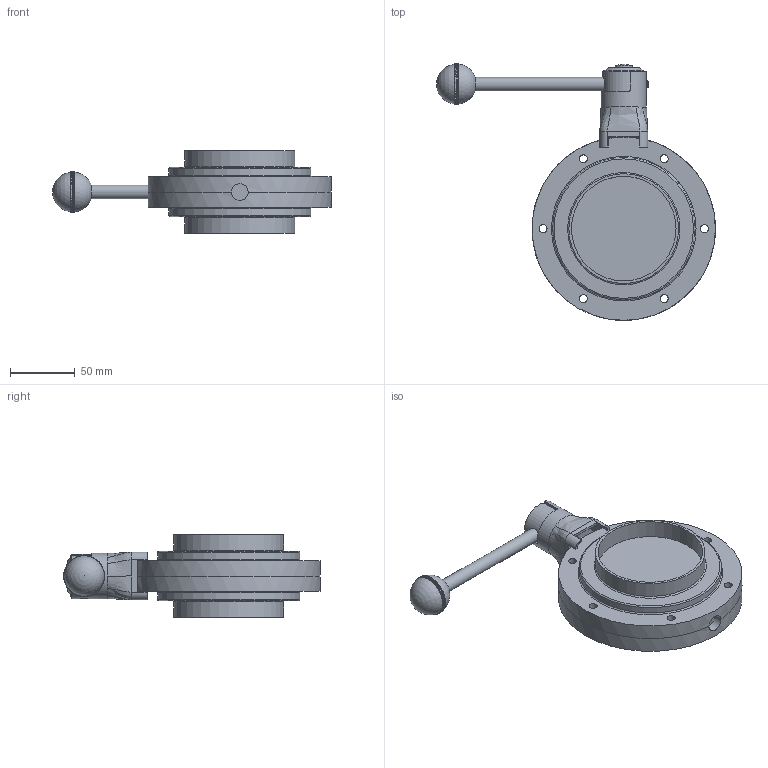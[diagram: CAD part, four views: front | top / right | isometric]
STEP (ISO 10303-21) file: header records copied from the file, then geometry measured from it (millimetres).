
FILE_DESCRIPTION(/* description */ ('VVF VALV.FARF.DN80 (85X2) SS EPDM 316 LEVA INOX 3POS.'),/* implementation_level */ '2;1');
FILE_NAME(/* name */ 'C:\_DED_PWS\ZIGN-L\DB\B\EBA\BEBACG080BEBV-00^SAGOMA.step',/* time_stamp */ '2022-04-21T17:21:56+02:00',/* author */ (''),/* organization */ (''),/* preprocessor_version */ 'ST-DEVELOPER v18.1',/* originating_system */ 'Autodesk Inventor 2022',/* authorisation */ '');
FILE_SCHEMA (('CONFIG_CONTROL_DESIGN'));
Length unit declared in the file: millimetre
Products named in the file (3): BEBACG080BEBV; TWD006080BBA; TNU430100AAA
Assembly tree (3 placements, depth 2):
  BEBACG080BEBV
    TWD006080BBA  x2
    TNU430100AAA
Bounding box: 215.94 x 198.82 x 64 mm (x, y, z)
Volume: 610847.3 mm3; surface area: 127869.5 mm2
Topology: 4 solids, 5 shells, 559 faces, 1366 edges, 896 vertices
Faces by surface type: plane 368, torus 84, cylinder 56, bspline 38, cone 11, sphere 2
Full cylindrical faces by diameter (mm): 6 x2, 6.2 x12, 6.5 x3, 9 x2, 9.3 x1, 10 x1, 10.4 x1, 10.5 x1, 10.9 x1, 11.1 x2, 11.5 x2, 13.4 x1, 14.9 x1, 15.2 x1, 15.5 x2, 31.2 x1, 31.4 x1, 35.2 x1, 81 x2, 85 x2, 110 x2, 142 x2
Entity records: 22528 total; most frequent: CARTESIAN_POINT 9397, DIRECTION 2629, ORIENTED_EDGE 2618, EDGE_CURVE 1309, AXIS2_PLACEMENT_3D 1070, VERTEX_POINT 860, EDGE_LOOP 639, CIRCLE 564
